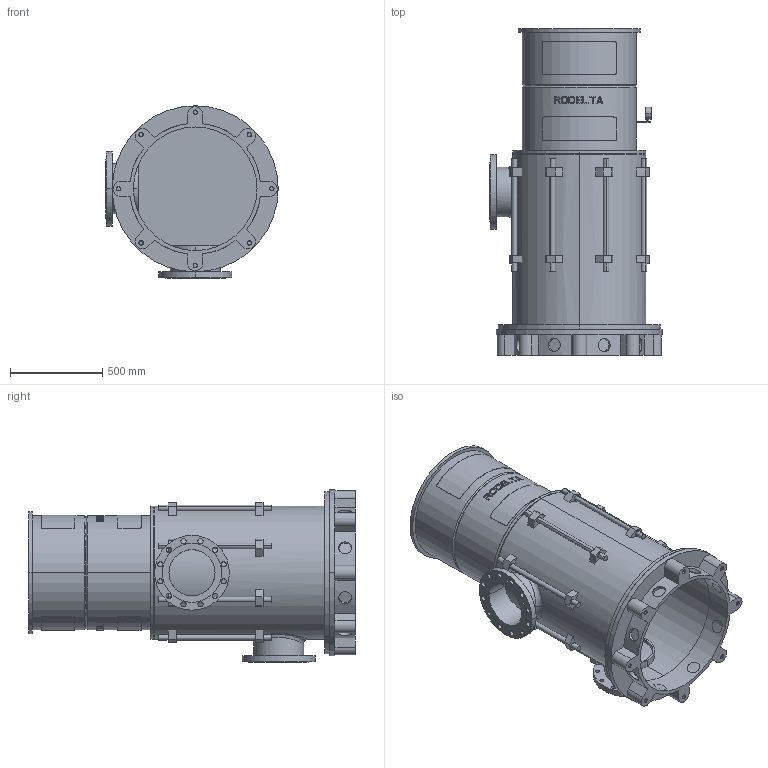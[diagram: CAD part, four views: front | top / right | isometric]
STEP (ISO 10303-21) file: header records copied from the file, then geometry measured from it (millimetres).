
FILE_DESCRIPTION((''),'2;1');
FILE_NAME('LS10_1TR_0GR_PN16','2025-10-24T13:36:30',('Lyritlocal'),(''),'CREO PARAMETRIC BY PTC INC, 2022014','CREO PARAMETRIC BY PTC INC, 2022014','');
FILE_SCHEMA(('CONFIG_CONTROL_DESIGN'));
Length unit declared in the file: millimetre
Products named in the file (1): LS10_1TR_0GR_PN16
Bounding box: 935 x 1770 x 935 mm (x, y, z)
Volume: 82959708.7 mm3; surface area: 11035601 mm2
Topology: 3 solids, 11 shells, 752 faces, 1936 edges, 1288 vertices
Faces by surface type: plane 462, cylinder 274, cone 12, bspline 4
Entity records: 24363 total; most frequent: CARTESIAN_POINT 6009, ORIENTED_EDGE 3840, DIRECTION 3664, EDGE_CURVE 1936, AXIS2_PLACEMENT_3D 1381, VERTEX_POINT 1288, EDGE_LOOP 922, VECTOR 902
